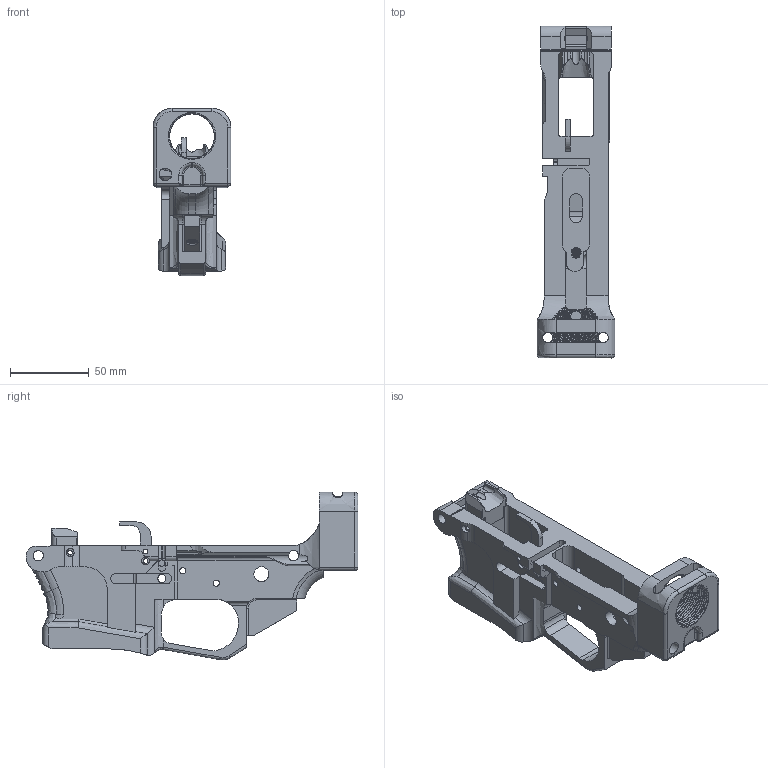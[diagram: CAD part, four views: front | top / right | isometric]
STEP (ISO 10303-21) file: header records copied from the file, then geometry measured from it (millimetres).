
FILE_DESCRIPTION(/* description */ (''),/* implementation_level */ '2;1');
FILE_NAME(/* name */ 'PCC 1.0/AR-45 - Macon Armory Mag - Final.step',/* time_stamp */ '2022-03-29T21:37:17-04:00',/* author */ (''),/* organization */ (''),/* preprocessor_version */ 'ST-DEVELOPER v18.1',/* originating_system */ 'Autodesk Translation Framework v10.13.0.1454',/* authorisation */ '');
FILE_SCHEMA (('AUTOMOTIVE_DESIGN { 1 0 10303 214 3 1 1 }'));
Products named in the file (4): AR-45 - Macon Armory Mag 1- Final; Frame (4) (1); Feed Lips (2) (2); Ejector-steel (6)
Assembly tree (3 placements, depth 2):
  AR-45 - Macon Armory Mag 1- Final
    Frame (4) (1)
    Feed Lips (2) (2)
    Ejector-steel (6)
Bounding box: 49.27 x 210.49 x 106.26 mm (x, y, z)
Volume: 225824.4 mm3; surface area: 72413.5 mm2
Topology: 3 solids, 3 shells, 704 faces, 2050 edges, 1335 vertices
Faces by surface type: cylinder 264, plane 241, bspline 181, cone 8, torus 8, sphere 2
Full cylindrical faces by diameter (mm): 3 x9, 3.175 x1, 3.962 x4, 5 x4, 5.172 x21, 5.182 x1, 6.35 x20, 6.5 x6, 6.75 x1, 7.938 x1, 8 x1, 9.525 x2, 28.47 x9, 30.043 x9
Entity records: 45491 total; most frequent: CARTESIAN_POINT 28480, ORIENTED_EDGE 4090, DIRECTION 2708, EDGE_CURVE 2045, VERTEX_POINT 1335, AXIS2_PLACEMENT_3D 938, LINE 832, VECTOR 832
